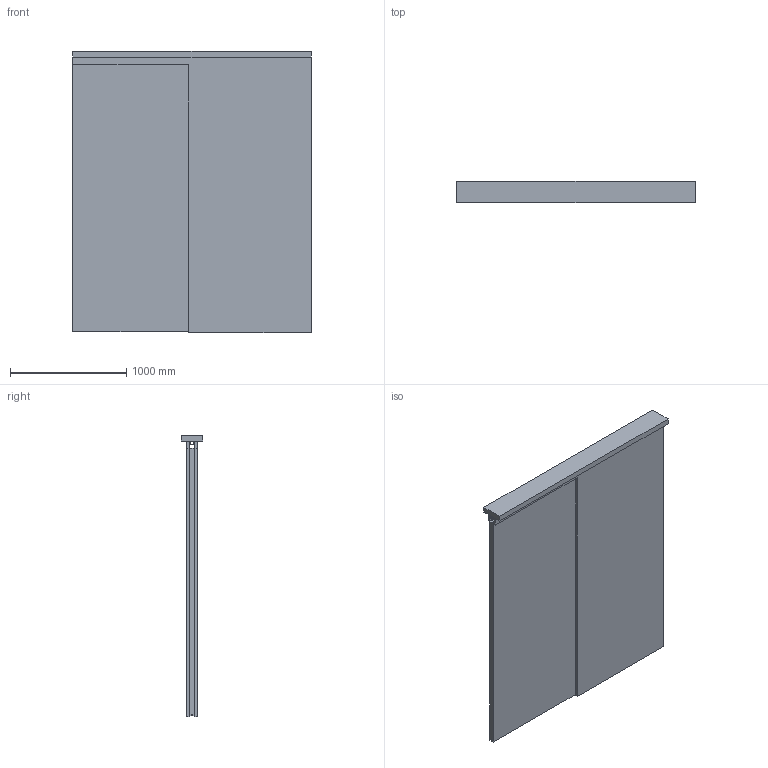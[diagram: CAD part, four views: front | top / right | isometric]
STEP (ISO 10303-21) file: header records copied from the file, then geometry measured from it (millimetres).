
FILE_DESCRIPTION(('STEP AP242'),'1');
FILE_NAME('OPO_65.080.02_volu_3d.stp','2026-01-14T05:24:03',(' '),(' '),'Spatial InterOp 3D',' ',' ');
FILE_SCHEMA(('AP242_MANAGED_MODEL_BASED_3D_ENGINEERING_MIM_LF {1 0 10303 442 1 1 4}'));
Length unit declared in the file: millimetre
Products named in the file (1): 1
Bounding box: 2050 x 188 x 2418 mm (x, y, z)
Volume: 214286074.4 mm3; surface area: 17219870.4 mm2
Topology: 5 solids, 5 shells, 108 faces, 280 edges, 186 vertices
Faces by surface type: plane 88, cylinder 20
Entity records: 4164 total; most frequent: CARTESIAN_POINT 579, ORIENTED_EDGE 560, DIRECTION 546, EDGE_CURVE 280, LINE 240, VECTOR 240, VERTEX_POINT 186, AXIS2_PLACEMENT_3D 153
